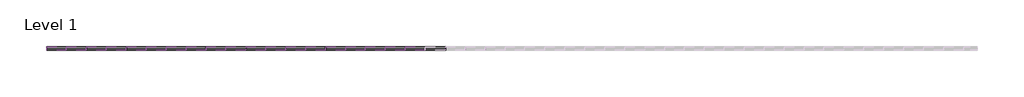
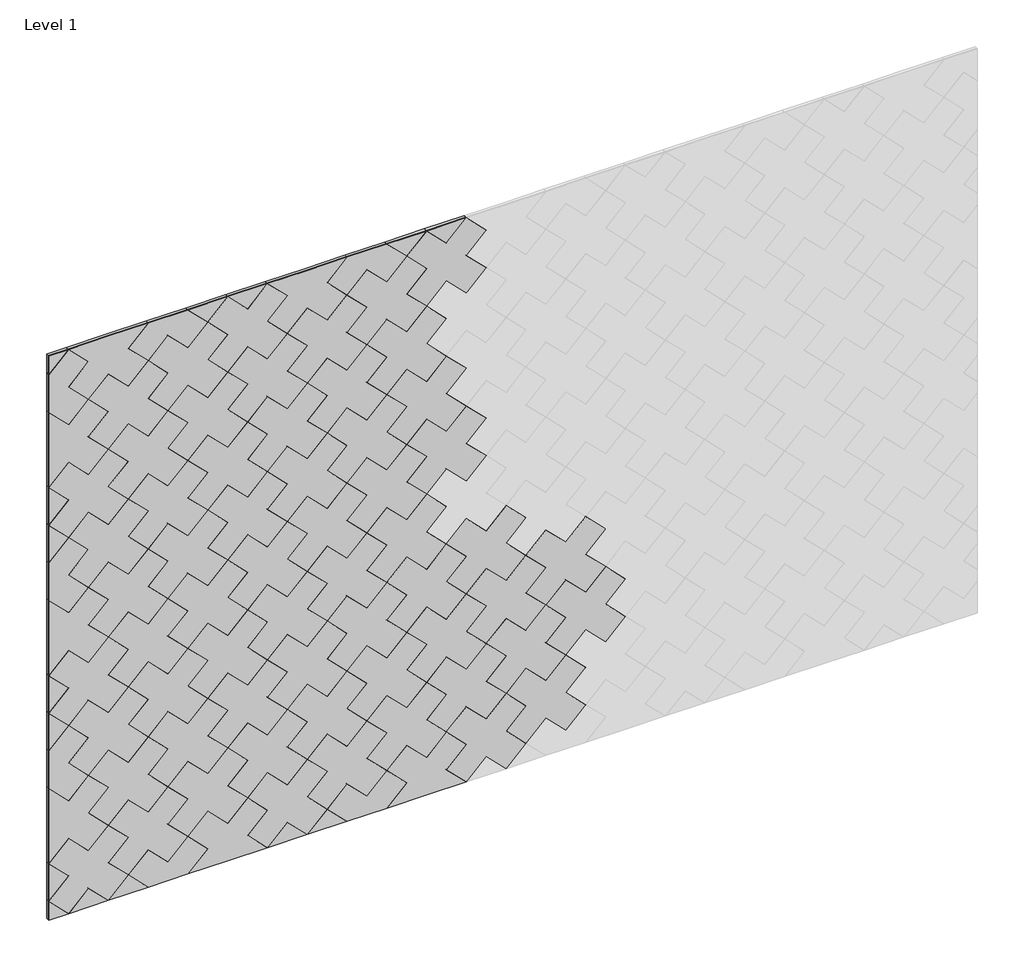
# One storey, part 1 of 2: 85 proxies.
"""IFC4 building model written with IfcOpenShell, lengths in millimetres."""

from ifc_helpers import new_model, si_unit, origin, place, context, project, spatial, transform, mapped, element, save
from components import plus_block_b4ba28bf, plus_block_f92352bd, plus_block_6a39ef65, plus_block_bc82657c, plus_block_e310b0f0, plus_block_724b5338, plus_block_983ba188, plus_block_45ecfcac, plus_block_d2276059, plus_block_438e83cd, plus_block_9b29f26b, plus_block_fb93f7b3

model = new_model("IFC4")

# Units and contexts
model_context = context("Model", 3, world=origin())
ifc_project = project(units=[si_unit("LENGTHUNIT", "METRE", prefix="MILLI")], contexts=[model_context])

# Site, building, storey
site = spatial("IfcSite", under=ifc_project)
building = spatial("IfcBuilding", under=site)
storey = spatial("IfcBuildingStorey", under=building, Name="Level 1", Elevation=0.0)

# Proxies
placement = place(None, origin())
plus_block_shape = plus_block_b4ba28bf(model_context)
element("IfcBuildingElementProxy", 1, Name="FilzFelt_Plus_Block : Plus Block", ObjectType="FilzFelt_Plus_Block : Plus Block", at=placement, inside=storey, context=model_context, shape_type="MappedRepresentation", body=[
    mapped(plus_block_shape, transform((19761.4081813, -17477.9339335, 1777.1117122), x_axis=(0.7071067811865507, 0.0, -0.7071067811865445), y_axis=(0.7071067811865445, 0.0, 0.7071067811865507), z_axis=(0.0, -1.0, 0.0))),
])
plus_block_2_shape = plus_block_f92352bd(model_context)
element("IfcBuildingElementProxy", 2, Name="FilzFelt_Plus_Block : Plus Block", ObjectType="FilzFelt_Plus_Block : Plus Block", at=placement, inside=storey, context=model_context, shape_type="MappedRepresentation", body=[
    mapped(plus_block_2_shape, transform((19545.740613, -17477.9339335, 1705.2225228), x_axis=(0.7071067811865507, 0.0, -0.7071067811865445), y_axis=(0.7071067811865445, 0.0, 0.7071067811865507), z_axis=(0.0, -1.0, 0.0))),
])
element("IfcBuildingElementProxy", 3, Name="FilzFelt_Plus_Block : Plus Block", ObjectType="FilzFelt_Plus_Block : Plus Block", at=placement, inside=storey, context=model_context, shape_type="MappedRepresentation", body=[
    mapped(plus_block_2_shape, transform((19545.740613, -17477.9339335, 267.4387343), x_axis=(0.7071067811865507, 0.0, -0.7071067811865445), y_axis=(0.7071067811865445, 0.0, 0.7071067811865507), z_axis=(0.0, -1.0, 0.0))),
])
plus_block_3_shape = plus_block_6a39ef65(model_context)
element("IfcBuildingElementProxy", 4, Name="FilzFelt_Plus_Block : Plus Block", ObjectType="FilzFelt_Plus_Block : Plus Block", at=placement, inside=storey, context=model_context, shape_type="MappedRepresentation", body=[
    mapped(plus_block_3_shape, transform((19833.2973707, -17477.9339335, 1561.4441439), x_axis=(0.7071067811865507, 0.0, -0.7071067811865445), y_axis=(0.7071067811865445, 0.0, 0.7071067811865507), z_axis=(0.0, -1.0, 0.0))),
])
element("IfcBuildingElementProxy", 5, Name="FilzFelt_Plus_Block : Plus Block", ObjectType="FilzFelt_Plus_Block : Plus Block", at=placement, inside=storey, context=model_context, shape_type="MappedRepresentation", body=[
    mapped(plus_block_3_shape, transform((19761.4081813, -17477.9339335, 339.3279238), x_axis=(0.7071067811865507, 0.0, -0.7071067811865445), y_axis=(0.7071067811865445, 0.0, 0.7071067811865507), z_axis=(0.0, -1.0, 0.0))),
])
element("IfcBuildingElementProxy", 6, Name="FilzFelt_Plus_Block : Plus Block", ObjectType="FilzFelt_Plus_Block : Plus Block", at=placement, inside=storey, context=model_context, shape_type="MappedRepresentation", body=[
    mapped(plus_block_3_shape, transform((19905.1865601, -17477.9339335, 626.8846814), x_axis=(0.7071067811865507, 0.0, -0.7071067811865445), y_axis=(0.7071067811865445, 0.0, 0.7071067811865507), z_axis=(0.0, -1.0, 0.0))),
])
element("IfcBuildingElementProxy", 7, Name="FilzFelt_Plus_Block : Plus Block", ObjectType="FilzFelt_Plus_Block : Plus Block", at=placement, inside=storey, context=model_context, shape_type="MappedRepresentation", body=[
    mapped(plus_block_3_shape, transform((20336.5216967, -17477.9339335, 770.6630603), x_axis=(0.7071067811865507, 0.0, -0.7071067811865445), y_axis=(0.7071067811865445, 0.0, 0.7071067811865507), z_axis=(0.0, -1.0, 0.0))),
])
element("IfcBuildingElementProxy", 8, Name="FilzFelt_Plus_Block : Plus Block", ObjectType="FilzFelt_Plus_Block : Plus Block", at=placement, inside=storey, context=model_context, shape_type="MappedRepresentation", body=[
    mapped(plus_block_3_shape, transform((19977.0757496, -17477.9339335, 411.2171132), x_axis=(0.7071067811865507, 0.0, -0.7071067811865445), y_axis=(0.7071067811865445, 0.0, 0.7071067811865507), z_axis=(0.0, -1.0, 0.0))),
])
element("IfcBuildingElementProxy", 9, Name="FilzFelt_Plus_Block : Plus Block", ObjectType="FilzFelt_Plus_Block : Plus Block", at=placement, inside=storey, context=model_context, shape_type="MappedRepresentation", body=[
    mapped(plus_block_3_shape, transform((20192.7433178, -17477.9339335, 483.1063026), x_axis=(0.7071067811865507, 0.0, -0.7071067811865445), y_axis=(0.7071067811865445, 0.0, 0.7071067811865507), z_axis=(0.0, -1.0, 0.0))),
])
element("IfcBuildingElementProxy", 10, Name="FilzFelt_Plus_Block : Plus Block", ObjectType="FilzFelt_Plus_Block : Plus Block", at=placement, inside=storey, context=model_context, shape_type="MappedRepresentation", body=[
    mapped(plus_block_3_shape, transform((20048.964939, -17477.9339335, 195.5495449), x_axis=(0.7071067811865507, 0.0, -0.7071067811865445), y_axis=(0.7071067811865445, 0.0, 0.7071067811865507), z_axis=(0.0, -1.0, 0.0))),
])
element("IfcBuildingElementProxy", 11, Name="FilzFelt_Plus_Block : Plus Block", ObjectType="FilzFelt_Plus_Block : Plus Block", at=placement, inside=storey, context=model_context, shape_type="MappedRepresentation", body=[
    mapped(plus_block_3_shape, transform((20408.4108861, -17477.9339335, 554.995492), x_axis=(0.7071067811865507, 0.0, -0.7071067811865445), y_axis=(0.7071067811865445, 0.0, 0.7071067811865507), z_axis=(0.0, -1.0, 0.0))),
])
element("IfcBuildingElementProxy", 12, Name="FilzFelt_Plus_Block : Plus Block", ObjectType="FilzFelt_Plus_Block : Plus Block", at=placement, inside=storey, context=model_context, shape_type="MappedRepresentation", body=[
    mapped(plus_block_3_shape, transform((20480.3000755, -17477.9339335, 339.3279238), x_axis=(0.7071067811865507, 0.0, -0.7071067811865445), y_axis=(0.7071067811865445, 0.0, 0.7071067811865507), z_axis=(0.0, -1.0, 0.0))),
])
element("IfcBuildingElementProxy", 13, Name="FilzFelt_Plus_Block : Plus Block", ObjectType="FilzFelt_Plus_Block : Plus Block", at=placement, inside=storey, context=model_context, shape_type="MappedRepresentation", body=[
    mapped(plus_block_3_shape, transform((20264.6325073, -17477.9339335, 1705.2225228), x_axis=(0.7071067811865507, 0.0, -0.7071067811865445), y_axis=(0.7071067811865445, 0.0, 0.7071067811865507), z_axis=(0.0, -1.0, 0.0))),
])
element("IfcBuildingElementProxy", 14, Name="FilzFelt_Plus_Block : Plus Block", ObjectType="FilzFelt_Plus_Block : Plus Block", at=placement, inside=storey, context=model_context, shape_type="MappedRepresentation", body=[
    mapped(plus_block_3_shape, transform((20624.0784544, -17477.9339335, 626.8846814), x_axis=(0.7071067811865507, 0.0, -0.7071067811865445), y_axis=(0.7071067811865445, 0.0, 0.7071067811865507), z_axis=(0.0, -1.0, 0.0))),
])
element("IfcBuildingElementProxy", 15, Name="FilzFelt_Plus_Block : Plus Block", ObjectType="FilzFelt_Plus_Block : Plus Block", at=placement, inside=storey, context=model_context, shape_type="MappedRepresentation", body=[
    mapped(plus_block_3_shape, transform((20911.635212, -17477.9339335, 483.1063026), x_axis=(0.7071067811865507, 0.0, -0.7071067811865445), y_axis=(0.7071067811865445, 0.0, 0.7071067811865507), z_axis=(0.0, -1.0, 0.0))),
])
element("IfcBuildingElementProxy", 16, Name="FilzFelt_Plus_Block : Plus Block", ObjectType="FilzFelt_Plus_Block : Plus Block", at=placement, inside=storey, context=model_context, shape_type="MappedRepresentation", body=[
    mapped(plus_block_3_shape, transform((20767.8568332, -17477.9339335, 914.4414391), x_axis=(0.7071067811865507, 0.0, -0.7071067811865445), y_axis=(0.7071067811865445, 0.0, 0.7071067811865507), z_axis=(0.0, -1.0, 0.0))),
])
element("IfcBuildingElementProxy", 17, Name="FilzFelt_Plus_Block : Plus Block", ObjectType="FilzFelt_Plus_Block : Plus Block", at=placement, inside=storey, context=model_context, shape_type="MappedRepresentation", body=[
    mapped(plus_block_3_shape, transform((20839.7460226, -17477.9339335, 698.7738709), x_axis=(0.7071067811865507, 0.0, -0.7071067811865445), y_axis=(0.7071067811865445, 0.0, 0.7071067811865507), z_axis=(0.0, -1.0, 0.0))),
])
plus_block_4_shape = plus_block_bc82657c(model_context)
element("IfcBuildingElementProxy", 18, Name="FilzFelt_Plus_Block : Plus Block", ObjectType="FilzFelt_Plus_Block : Plus Block", at=placement, inside=storey, context=model_context, shape_type="MappedRepresentation", body=[
    mapped(plus_block_4_shape, transform((19473.8514236, -17477.9339335, 1920.890091), x_axis=(0.7071067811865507, 0.0, -0.7071067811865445), y_axis=(0.7071067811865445, 0.0, 0.7071067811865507), z_axis=(0.0, -1.0, 0.0))),
])
plus_block_5_shape = plus_block_e310b0f0(model_context)
element("IfcBuildingElementProxy", 19, Name="FilzFelt_Plus_Block : Plus Block", ObjectType="FilzFelt_Plus_Block : Plus Block", at=placement, inside=storey, context=model_context, shape_type="MappedRepresentation", body=[
    mapped(plus_block_5_shape, transform((19977.0757496, -17477.9339335, 1849.0009016), x_axis=(0.7071067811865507, 0.0, -0.7071067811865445), y_axis=(0.7071067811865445, 0.0, 0.7071067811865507), z_axis=(0.0, -1.0, 0.0))),
])
element("IfcBuildingElementProxy", 20, Name="FilzFelt_Plus_Block : Plus Block", ObjectType="FilzFelt_Plus_Block : Plus Block", at=placement, inside=storey, context=model_context, shape_type="MappedRepresentation", body=[
    mapped(plus_block_5_shape, transform((20695.9676438, -17477.9339335, 1849.0009016), x_axis=(0.7071067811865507, 0.0, -0.7071067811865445), y_axis=(0.7071067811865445, 0.0, 0.7071067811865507), z_axis=(0.0, -1.0, 0.0))),
])
plus_block_6_shape = plus_block_724b5338(model_context)
element("IfcBuildingElementProxy", 21, Name="FilzFelt_Plus_Block : Plus Block", ObjectType="FilzFelt_Plus_Block : Plus Block", at=placement, inside=storey, context=model_context, shape_type="MappedRepresentation", body=[
    mapped(plus_block_6_shape, transform((19473.8514236, -17477.9339335, 626.8846814), x_axis=(0.7071067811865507, 0.0, -0.7071067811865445), y_axis=(0.7071067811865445, 0.0, 0.7071067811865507), z_axis=(0.0, -1.0, 0.0))),
])
element("IfcBuildingElementProxy", 22, Name="FilzFelt_Plus_Block : Plus Block", ObjectType="FilzFelt_Plus_Block : Plus Block", at=placement, inside=storey, context=model_context, shape_type="MappedRepresentation", body=[
    mapped(plus_block_6_shape, transform((19473.8514236, -17477.9339335, 483.1063026), x_axis=(0.7071067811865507, 0.0, -0.7071067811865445), y_axis=(0.7071067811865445, 0.0, 0.7071067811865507), z_axis=(0.0, -1.0, 0.0))),
])
plus_block_7_shape = plus_block_983ba188(model_context)
element("IfcBuildingElementProxy", 23, Name="FilzFelt_Plus_Block : Plus Block", ObjectType="FilzFelt_Plus_Block : Plus Block", at=placement, inside=storey, context=model_context, shape_type="MappedRepresentation", body=[
    mapped(plus_block_7_shape, transform((19617.6298025, -17477.9339335, 51.7711661), x_axis=(0.7071067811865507, 0.0, -0.7071067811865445), y_axis=(0.7071067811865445, 0.0, 0.7071067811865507), z_axis=(0.0, -1.0, 0.0))),
])
plus_block_8_shape = plus_block_45ecfcac(model_context)
element("IfcBuildingElementProxy", 24, Name="FilzFelt_Plus_Block : Plus Block", ObjectType="FilzFelt_Plus_Block : Plus Block", at=placement, inside=storey, context=model_context, shape_type="MappedRepresentation", body=[
    mapped(plus_block_8_shape, transform((20192.7433178, -17477.9339335, 1920.890091), x_axis=(0.7071067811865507, 0.0, -0.7071067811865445), y_axis=(0.7071067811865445, 0.0, 0.7071067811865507), z_axis=(0.0, -1.0, 0.0))),
])
element("IfcBuildingElementProxy", 25, Name="FilzFelt_Plus_Block : Plus Block", ObjectType="FilzFelt_Plus_Block : Plus Block", at=placement, inside=storey, context=model_context, shape_type="MappedRepresentation", body=[
    mapped(plus_block_3_shape, transform((19905.1865601, -17477.9339335, 1345.7765757), x_axis=(0.7071067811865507, 0.0, -0.7071067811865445), y_axis=(0.7071067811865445, 0.0, 0.7071067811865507), z_axis=(0.0, -1.0, 0.0))),
])
element("IfcBuildingElementProxy", 26, Name="FilzFelt_Plus_Block : Plus Block", ObjectType="FilzFelt_Plus_Block : Plus Block", at=placement, inside=storey, context=model_context, shape_type="MappedRepresentation", body=[
    mapped(plus_block_3_shape, transform((19689.5189919, -17477.9339335, 1273.8873862), x_axis=(0.7071067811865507, 0.0, -0.7071067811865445), y_axis=(0.7071067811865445, 0.0, 0.7071067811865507), z_axis=(0.0, -1.0, 0.0))),
])
element("IfcBuildingElementProxy", 27, Name="FilzFelt_Plus_Block : Plus Block", ObjectType="FilzFelt_Plus_Block : Plus Block", at=placement, inside=storey, context=model_context, shape_type="MappedRepresentation", body=[
    mapped(plus_block_3_shape, transform((19761.4081813, -17477.9339335, 1058.219818), x_axis=(0.7071067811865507, 0.0, -0.7071067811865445), y_axis=(0.7071067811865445, 0.0, 0.7071067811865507), z_axis=(0.0, -1.0, 0.0))),
])
element("IfcBuildingElementProxy", 28, Name="FilzFelt_Plus_Block : Plus Block", ObjectType="FilzFelt_Plus_Block : Plus Block", at=placement, inside=storey, context=model_context, shape_type="MappedRepresentation", body=[
    mapped(plus_block_3_shape, transform((19689.5189919, -17477.9339335, -163.8964022), x_axis=(0.7071067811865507, 0.0, -0.7071067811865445), y_axis=(0.7071067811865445, 0.0, 0.7071067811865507), z_axis=(0.0, -1.0, 0.0))),
])
element("IfcBuildingElementProxy", 29, Name="FilzFelt_Plus_Block : Plus Block", ObjectType="FilzFelt_Plus_Block : Plus Block", at=placement, inside=storey, context=model_context, shape_type="MappedRepresentation", body=[
    mapped(plus_block_3_shape, transform((20048.964939, -17477.9339335, 1633.3333333), x_axis=(0.7071067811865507, 0.0, -0.7071067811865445), y_axis=(0.7071067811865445, 0.0, 0.7071067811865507), z_axis=(0.0, -1.0, 0.0))),
])
element("IfcBuildingElementProxy", 30, Name="FilzFelt_Plus_Block : Plus Block", ObjectType="FilzFelt_Plus_Block : Plus Block", at=placement, inside=storey, context=model_context, shape_type="MappedRepresentation", body=[
    mapped(plus_block_3_shape, transform((20120.8541284, -17477.9339335, 1417.6657651), x_axis=(0.7071067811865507, 0.0, -0.7071067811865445), y_axis=(0.7071067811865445, 0.0, 0.7071067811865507), z_axis=(0.0, -1.0, 0.0))),
])
element("IfcBuildingElementProxy", 31, Name="FilzFelt_Plus_Block : Plus Block", ObjectType="FilzFelt_Plus_Block : Plus Block", at=placement, inside=storey, context=model_context, shape_type="MappedRepresentation", body=[
    mapped(plus_block_3_shape, transform((20192.7433178, -17477.9339335, 1201.9981968), x_axis=(0.7071067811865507, 0.0, -0.7071067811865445), y_axis=(0.7071067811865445, 0.0, 0.7071067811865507), z_axis=(0.0, -1.0, 0.0))),
])
element("IfcBuildingElementProxy", 32, Name="FilzFelt_Plus_Block : Plus Block", ObjectType="FilzFelt_Plus_Block : Plus Block", at=placement, inside=storey, context=model_context, shape_type="MappedRepresentation", body=[
    mapped(plus_block_3_shape, transform((19833.2973707, -17477.9339335, 123.6603555), x_axis=(0.7071067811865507, 0.0, -0.7071067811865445), y_axis=(0.7071067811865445, 0.0, 0.7071067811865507), z_axis=(0.0, -1.0, 0.0))),
])
element("IfcBuildingElementProxy", 33, Name="FilzFelt_Plus_Block : Plus Block", ObjectType="FilzFelt_Plus_Block : Plus Block", at=placement, inside=storey, context=model_context, shape_type="MappedRepresentation", body=[
    mapped(plus_block_3_shape, transform((20264.6325073, -17477.9339335, 267.4387343), x_axis=(0.7071067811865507, 0.0, -0.7071067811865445), y_axis=(0.7071067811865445, 0.0, 0.7071067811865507), z_axis=(0.0, -1.0, 0.0))),
])
element("IfcBuildingElementProxy", 34, Name="FilzFelt_Plus_Block : Plus Block", ObjectType="FilzFelt_Plus_Block : Plus Block", at=placement, inside=storey, context=model_context, shape_type="MappedRepresentation", body=[
    mapped(plus_block_3_shape, transform((19905.1865601, -17477.9339335, -92.0072128), x_axis=(0.7071067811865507, 0.0, -0.7071067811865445), y_axis=(0.7071067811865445, 0.0, 0.7071067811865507), z_axis=(0.0, -1.0, 0.0))),
])
element("IfcBuildingElementProxy", 35, Name="FilzFelt_Plus_Block : Plus Block", ObjectType="FilzFelt_Plus_Block : Plus Block", at=placement, inside=storey, context=model_context, shape_type="MappedRepresentation", body=[
    mapped(plus_block_3_shape, transform((20120.8541284, -17477.9339335, -20.1180233), x_axis=(0.7071067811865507, 0.0, -0.7071067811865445), y_axis=(0.7071067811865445, 0.0, 0.7071067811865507), z_axis=(0.0, -1.0, 0.0))),
])
element("IfcBuildingElementProxy", 36, Name="FilzFelt_Plus_Block : Plus Block", ObjectType="FilzFelt_Plus_Block : Plus Block", at=placement, inside=storey, context=model_context, shape_type="MappedRepresentation", body=[
    mapped(plus_block_3_shape, transform((20336.5216967, -17477.9339335, 51.7711661), x_axis=(0.7071067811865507, 0.0, -0.7071067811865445), y_axis=(0.7071067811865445, 0.0, 0.7071067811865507), z_axis=(0.0, -1.0, 0.0))),
])
element("IfcBuildingElementProxy", 37, Name="FilzFelt_Plus_Block : Plus Block", ObjectType="FilzFelt_Plus_Block : Plus Block", at=placement, inside=storey, context=model_context, shape_type="MappedRepresentation", body=[
    mapped(plus_block_3_shape, transform((20552.1892649, -17477.9339335, 123.6603555), x_axis=(0.7071067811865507, 0.0, -0.7071067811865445), y_axis=(0.7071067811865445, 0.0, 0.7071067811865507), z_axis=(0.0, -1.0, 0.0))),
])
element("IfcBuildingElementProxy", 38, Name="FilzFelt_Plus_Block : Plus Block", ObjectType="FilzFelt_Plus_Block : Plus Block", at=placement, inside=storey, context=model_context, shape_type="MappedRepresentation", body=[
    mapped(plus_block_3_shape, transform((20408.4108861, -17477.9339335, -163.8964022), x_axis=(0.7071067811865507, 0.0, -0.7071067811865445), y_axis=(0.7071067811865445, 0.0, 0.7071067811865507), z_axis=(0.0, -1.0, 0.0))),
])
element("IfcBuildingElementProxy", 39, Name="FilzFelt_Plus_Block : Plus Block", ObjectType="FilzFelt_Plus_Block : Plus Block", at=placement, inside=storey, context=model_context, shape_type="MappedRepresentation", body=[
    mapped(plus_block_3_shape, transform((20336.5216967, -17477.9339335, 1489.5549545), x_axis=(0.7071067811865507, 0.0, -0.7071067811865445), y_axis=(0.7071067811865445, 0.0, 0.7071067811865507), z_axis=(0.0, -1.0, 0.0))),
])
element("IfcBuildingElementProxy", 40, Name="FilzFelt_Plus_Block : Plus Block", ObjectType="FilzFelt_Plus_Block : Plus Block", at=placement, inside=storey, context=model_context, shape_type="MappedRepresentation", body=[
    mapped(plus_block_3_shape, transform((20552.1892649, -17477.9339335, 1561.4441439), x_axis=(0.7071067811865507, 0.0, -0.7071067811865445), y_axis=(0.7071067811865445, 0.0, 0.7071067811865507), z_axis=(0.0, -1.0, 0.0))),
])
element("IfcBuildingElementProxy", 41, Name="FilzFelt_Plus_Block : Plus Block", ObjectType="FilzFelt_Plus_Block : Plus Block", at=placement, inside=storey, context=model_context, shape_type="MappedRepresentation", body=[
    mapped(plus_block_3_shape, transform((20624.0784544, -17477.9339335, 1345.7765757), x_axis=(0.7071067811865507, 0.0, -0.7071067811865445), y_axis=(0.7071067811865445, 0.0, 0.7071067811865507), z_axis=(0.0, -1.0, 0.0))),
])
element("IfcBuildingElementProxy", 42, Name="FilzFelt_Plus_Block : Plus Block", ObjectType="FilzFelt_Plus_Block : Plus Block", at=placement, inside=storey, context=model_context, shape_type="MappedRepresentation", body=[
    mapped(plus_block_3_shape, transform((20695.9676438, -17477.9339335, 411.2171132), x_axis=(0.7071067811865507, 0.0, -0.7071067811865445), y_axis=(0.7071067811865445, 0.0, 0.7071067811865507), z_axis=(0.0, -1.0, 0.0))),
])
element("IfcBuildingElementProxy", 43, Name="FilzFelt_Plus_Block : Plus Block", ObjectType="FilzFelt_Plus_Block : Plus Block", at=placement, inside=storey, context=model_context, shape_type="MappedRepresentation", body=[
    mapped(plus_block_3_shape, transform((20767.8568332, -17477.9339335, 195.5495449), x_axis=(0.7071067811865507, 0.0, -0.7071067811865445), y_axis=(0.7071067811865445, 0.0, 0.7071067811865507), z_axis=(0.0, -1.0, 0.0))),
])
element("IfcBuildingElementProxy", 44, Name="FilzFelt_Plus_Block : Plus Block", ObjectType="FilzFelt_Plus_Block : Plus Block", at=placement, inside=storey, context=model_context, shape_type="MappedRepresentation", body=[
    mapped(plus_block_3_shape, transform((20839.7460226, -17477.9339335, -20.1180233), x_axis=(0.7071067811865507, 0.0, -0.7071067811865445), y_axis=(0.7071067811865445, 0.0, 0.7071067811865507), z_axis=(0.0, -1.0, 0.0))),
])
element("IfcBuildingElementProxy", 45, Name="FilzFelt_Plus_Block : Plus Block", ObjectType="FilzFelt_Plus_Block : Plus Block", at=placement, inside=storey, context=model_context, shape_type="MappedRepresentation", body=[
    mapped(plus_block_3_shape, transform((20983.5244015, -17477.9339335, 267.4387343), x_axis=(0.7071067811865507, 0.0, -0.7071067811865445), y_axis=(0.7071067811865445, 0.0, 0.7071067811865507), z_axis=(0.0, -1.0, 0.0))),
])
element("IfcBuildingElementProxy", 46, Name="FilzFelt_Plus_Block : Plus Block", ObjectType="FilzFelt_Plus_Block : Plus Block", at=placement, inside=storey, context=model_context, shape_type="MappedRepresentation", body=[
    mapped(plus_block_3_shape, transform((21271.0811591, -17477.9339335, 123.6603555), x_axis=(0.7071067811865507, 0.0, -0.7071067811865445), y_axis=(0.7071067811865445, 0.0, 0.7071067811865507), z_axis=(0.0, -1.0, 0.0))),
])
element("IfcBuildingElementProxy", 47, Name="FilzFelt_Plus_Block : Plus Block", ObjectType="FilzFelt_Plus_Block : Plus Block", at=placement, inside=storey, context=model_context, shape_type="MappedRepresentation", body=[
    mapped(plus_block_3_shape, transform((21199.1919697, -17477.9339335, 339.3279238), x_axis=(0.7071067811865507, 0.0, -0.7071067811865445), y_axis=(0.7071067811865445, 0.0, 0.7071067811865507), z_axis=(0.0, -1.0, 0.0))),
])
element("IfcBuildingElementProxy", 48, Name="FilzFelt_Plus_Block : Plus Block", ObjectType="FilzFelt_Plus_Block : Plus Block", at=placement, inside=storey, context=model_context, shape_type="MappedRepresentation", body=[
    mapped(plus_block_3_shape, transform((21127.3027803, -17477.9339335, 554.995492), x_axis=(0.7071067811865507, 0.0, -0.7071067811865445), y_axis=(0.7071067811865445, 0.0, 0.7071067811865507), z_axis=(0.0, -1.0, 0.0))),
])
element("IfcBuildingElementProxy", 49, Name="FilzFelt_Plus_Block : Plus Block", ObjectType="FilzFelt_Plus_Block : Plus Block", at=placement, inside=storey, context=model_context, shape_type="MappedRepresentation", body=[
    mapped(plus_block_3_shape, transform((21414.859538, -17477.9339335, 411.2171132), x_axis=(0.7071067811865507, 0.0, -0.7071067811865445), y_axis=(0.7071067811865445, 0.0, 0.7071067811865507), z_axis=(0.0, -1.0, 0.0))),
])
element("IfcBuildingElementProxy", 50, Name="FilzFelt_Plus_Block : Plus Block", ObjectType="FilzFelt_Plus_Block : Plus Block", at=placement, inside=storey, context=model_context, shape_type="MappedRepresentation", body=[
    mapped(plus_block_3_shape, transform((20767.8568332, -17477.9339335, 1633.3333333), x_axis=(0.7071067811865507, 0.0, -0.7071067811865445), y_axis=(0.7071067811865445, 0.0, 0.7071067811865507), z_axis=(0.0, -1.0, 0.0))),
])
element("IfcBuildingElementProxy", 51, Name="FilzFelt_Plus_Block : Plus Block", ObjectType="FilzFelt_Plus_Block : Plus Block", at=placement, inside=storey, context=model_context, shape_type="MappedRepresentation", body=[
    mapped(plus_block_3_shape, transform((20983.5244015, -17477.9339335, 1705.2225228), x_axis=(0.7071067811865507, 0.0, -0.7071067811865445), y_axis=(0.7071067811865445, 0.0, 0.7071067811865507), z_axis=(0.0, -1.0, 0.0))),
])
plus_block_9_shape = plus_block_d2276059(model_context)
element("IfcBuildingElementProxy", 52, Name="FilzFelt_Plus_Block : Plus Block", ObjectType="FilzFelt_Plus_Block : Plus Block", at=placement, inside=storey, context=model_context, shape_type="MappedRepresentation", body=[
    mapped(plus_block_9_shape, transform((19977.0757496, -17477.9339335, -307.674781), x_axis=(0.7071067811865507, 0.0, -0.7071067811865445), y_axis=(0.7071067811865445, 0.0, 0.7071067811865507), z_axis=(0.0, -1.0, 0.0))),
])
element("IfcBuildingElementProxy", 53, Name="FilzFelt_Plus_Block : Plus Block", ObjectType="FilzFelt_Plus_Block : Plus Block", at=placement, inside=storey, context=model_context, shape_type="MappedRepresentation", body=[
    mapped(plus_block_6_shape, transform((19473.8514236, -17477.9339335, -92.0072128), x_axis=(0.7071067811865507, 0.0, -0.7071067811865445), y_axis=(0.7071067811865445, 0.0, 0.7071067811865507), z_axis=(0.0, -1.0, 0.0))),
])
element("IfcBuildingElementProxy", 54, Name="FilzFelt_Plus_Block : Plus Block", ObjectType="FilzFelt_Plus_Block : Plus Block", at=placement, inside=storey, context=model_context, shape_type="MappedRepresentation", body=[
    mapped(plus_block_6_shape, transform((19617.6298025, -17477.9339335, -379.5639704), x_axis=(0.7071067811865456, 0.0, 0.7071067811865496), y_axis=(-0.7071067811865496, 0.0, 0.7071067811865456), z_axis=(0.0, -1.0, 0.0))),
])
element("IfcBuildingElementProxy", 55, Name="FilzFelt_Plus_Block : Plus Block", ObjectType="FilzFelt_Plus_Block : Plus Block", at=placement, inside=storey, context=model_context, shape_type="MappedRepresentation", body=[
    mapped(plus_block_6_shape, transform((19761.4081813, -17477.9339335, -379.5639704), x_axis=(0.7071067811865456, 0.0, 0.7071067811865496), y_axis=(-0.7071067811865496, 0.0, 0.7071067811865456), z_axis=(0.0, -1.0, 0.0))),
])
plus_block_10_shape = plus_block_438e83cd(model_context)
element("IfcBuildingElementProxy", 56, Name="FilzFelt_Plus_Block : Plus Block", ObjectType="FilzFelt_Plus_Block : Plus Block", at=placement, inside=storey, context=model_context, shape_type="MappedRepresentation", body=[
    mapped(plus_block_10_shape, transform((19473.8514236, -17477.9339335, -235.7855916), x_axis=(0.7071067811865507, 0.0, -0.7071067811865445), y_axis=(0.7071067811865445, 0.0, 0.7071067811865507), z_axis=(0.0, -1.0, 0.0))),
])
plus_block_11_shape = plus_block_9b29f26b(model_context)
element("IfcBuildingElementProxy", 57, Name="FilzFelt_Plus_Block : Plus Block", ObjectType="FilzFelt_Plus_Block : Plus Block", at=placement, inside=storey, context=model_context, shape_type="MappedRepresentation", body=[
    mapped(plus_block_11_shape, transform((20192.7433178, -17477.9339335, -235.7855916), x_axis=(0.7071067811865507, 0.0, -0.7071067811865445), y_axis=(0.7071067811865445, 0.0, 0.7071067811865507), z_axis=(0.0, -1.0, 0.0))),
])
element("IfcBuildingElementProxy", 58, Name="FilzFelt_Plus_Block : Plus Block", ObjectType="FilzFelt_Plus_Block : Plus Block", at=placement, inside=storey, context=model_context, shape_type="MappedRepresentation", body=[
    mapped(plus_block_11_shape, transform((20911.635212, -17477.9339335, -235.7855916), x_axis=(0.7071067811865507, 0.0, -0.7071067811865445), y_axis=(0.7071067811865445, 0.0, 0.7071067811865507), z_axis=(0.0, -1.0, 0.0))),
])
element("IfcBuildingElementProxy", 59, Name="FilzFelt_Plus_Block : Plus Block", ObjectType="FilzFelt_Plus_Block : Plus Block", at=placement, inside=storey, context=model_context, shape_type="MappedRepresentation", body=[
    mapped(plus_block_3_shape, transform((19689.5189919, -17477.9339335, 554.995492), x_axis=(0.7071067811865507, 0.0, -0.7071067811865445), y_axis=(0.7071067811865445, 0.0, 0.7071067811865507), z_axis=(0.0, -1.0, 0.0))),
])
element("IfcBuildingElementProxy", 60, Name="FilzFelt_Plus_Block : Plus Block", ObjectType="FilzFelt_Plus_Block : Plus Block", at=placement, inside=storey, context=model_context, shape_type="MappedRepresentation", body=[
    mapped(plus_block_3_shape, transform((19977.0757496, -17477.9339335, 1130.1090074), x_axis=(0.7071067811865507, 0.0, -0.7071067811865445), y_axis=(0.7071067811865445, 0.0, 0.7071067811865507), z_axis=(0.0, -1.0, 0.0))),
])
element("IfcBuildingElementProxy", 61, Name="FilzFelt_Plus_Block : Plus Block", ObjectType="FilzFelt_Plus_Block : Plus Block", at=placement, inside=storey, context=model_context, shape_type="MappedRepresentation", body=[
    mapped(plus_block_3_shape, transform((19833.2973707, -17477.9339335, 842.5522497), x_axis=(0.7071067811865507, 0.0, -0.7071067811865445), y_axis=(0.7071067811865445, 0.0, 0.7071067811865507), z_axis=(0.0, -1.0, 0.0))),
])
element("IfcBuildingElementProxy", 62, Name="FilzFelt_Plus_Block : Plus Block", ObjectType="FilzFelt_Plus_Block : Plus Block", at=placement, inside=storey, context=model_context, shape_type="MappedRepresentation", body=[
    mapped(plus_block_3_shape, transform((20048.964939, -17477.9339335, 914.4414391), x_axis=(0.7071067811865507, 0.0, -0.7071067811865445), y_axis=(0.7071067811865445, 0.0, 0.7071067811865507), z_axis=(0.0, -1.0, 0.0))),
])
element("IfcBuildingElementProxy", 63, Name="FilzFelt_Plus_Block : Plus Block", ObjectType="FilzFelt_Plus_Block : Plus Block", at=placement, inside=storey, context=model_context, shape_type="MappedRepresentation", body=[
    mapped(plus_block_3_shape, transform((20264.6325073, -17477.9339335, 986.3306285), x_axis=(0.7071067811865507, 0.0, -0.7071067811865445), y_axis=(0.7071067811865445, 0.0, 0.7071067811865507), z_axis=(0.0, -1.0, 0.0))),
])
element("IfcBuildingElementProxy", 64, Name="FilzFelt_Plus_Block : Plus Block", ObjectType="FilzFelt_Plus_Block : Plus Block", at=placement, inside=storey, context=model_context, shape_type="MappedRepresentation", body=[
    mapped(plus_block_3_shape, transform((20120.8541284, -17477.9339335, 698.7738709), x_axis=(0.7071067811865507, 0.0, -0.7071067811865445), y_axis=(0.7071067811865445, 0.0, 0.7071067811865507), z_axis=(0.0, -1.0, 0.0))),
])
element("IfcBuildingElementProxy", 65, Name="FilzFelt_Plus_Block : Plus Block", ObjectType="FilzFelt_Plus_Block : Plus Block", at=placement, inside=storey, context=model_context, shape_type="MappedRepresentation", body=[
    mapped(plus_block_3_shape, transform((20624.0784544, -17477.9339335, -92.0072128), x_axis=(0.7071067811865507, 0.0, -0.7071067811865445), y_axis=(0.7071067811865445, 0.0, 0.7071067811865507), z_axis=(0.0, -1.0, 0.0))),
])
element("IfcBuildingElementProxy", 66, Name="FilzFelt_Plus_Block : Plus Block", ObjectType="FilzFelt_Plus_Block : Plus Block", at=placement, inside=storey, context=model_context, shape_type="MappedRepresentation", body=[
    mapped(plus_block_3_shape, transform((20408.4108861, -17477.9339335, 1273.8873862), x_axis=(0.7071067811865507, 0.0, -0.7071067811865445), y_axis=(0.7071067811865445, 0.0, 0.7071067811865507), z_axis=(0.0, -1.0, 0.0))),
])
element("IfcBuildingElementProxy", 67, Name="FilzFelt_Plus_Block : Plus Block", ObjectType="FilzFelt_Plus_Block : Plus Block", at=placement, inside=storey, context=model_context, shape_type="MappedRepresentation", body=[
    mapped(plus_block_3_shape, transform((20480.3000755, -17477.9339335, 1058.219818), x_axis=(0.7071067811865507, 0.0, -0.7071067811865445), y_axis=(0.7071067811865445, 0.0, 0.7071067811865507), z_axis=(0.0, -1.0, 0.0))),
])
element("IfcBuildingElementProxy", 68, Name="FilzFelt_Plus_Block : Plus Block", ObjectType="FilzFelt_Plus_Block : Plus Block", at=placement, inside=storey, context=model_context, shape_type="MappedRepresentation", body=[
    mapped(plus_block_3_shape, transform((20695.9676438, -17477.9339335, 1130.1090074), x_axis=(0.7071067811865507, 0.0, -0.7071067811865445), y_axis=(0.7071067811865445, 0.0, 0.7071067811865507), z_axis=(0.0, -1.0, 0.0))),
])
element("IfcBuildingElementProxy", 69, Name="FilzFelt_Plus_Block : Plus Block", ObjectType="FilzFelt_Plus_Block : Plus Block", at=placement, inside=storey, context=model_context, shape_type="MappedRepresentation", body=[
    mapped(plus_block_3_shape, transform((20552.1892649, -17477.9339335, 842.5522497), x_axis=(0.7071067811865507, 0.0, -0.7071067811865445), y_axis=(0.7071067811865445, 0.0, 0.7071067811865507), z_axis=(0.0, -1.0, 0.0))),
])
element("IfcBuildingElementProxy", 70, Name="FilzFelt_Plus_Block : Plus Block", ObjectType="FilzFelt_Plus_Block : Plus Block", at=placement, inside=storey, context=model_context, shape_type="MappedRepresentation", body=[
    mapped(plus_block_3_shape, transform((21127.3027803, -17477.9339335, -163.8964022), x_axis=(0.7071067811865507, 0.0, -0.7071067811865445), y_axis=(0.7071067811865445, 0.0, 0.7071067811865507), z_axis=(0.0, -1.0, 0.0))),
])
element("IfcBuildingElementProxy", 71, Name="FilzFelt_Plus_Block : Plus Block", ObjectType="FilzFelt_Plus_Block : Plus Block", at=placement, inside=storey, context=model_context, shape_type="MappedRepresentation", body=[
    mapped(plus_block_3_shape, transform((21055.4135909, -17477.9339335, 51.7711661), x_axis=(0.7071067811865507, 0.0, -0.7071067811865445), y_axis=(0.7071067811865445, 0.0, 0.7071067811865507), z_axis=(0.0, -1.0, 0.0))),
])
element("IfcBuildingElementProxy", 72, Name="FilzFelt_Plus_Block : Plus Block", ObjectType="FilzFelt_Plus_Block : Plus Block", at=placement, inside=storey, context=model_context, shape_type="MappedRepresentation", body=[
    mapped(plus_block_3_shape, transform((21486.7487274, -17477.9339335, 195.5495449), x_axis=(0.7071067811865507, 0.0, -0.7071067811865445), y_axis=(0.7071067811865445, 0.0, 0.7071067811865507), z_axis=(0.0, -1.0, 0.0))),
])
element("IfcBuildingElementProxy", 73, Name="FilzFelt_Plus_Block : Plus Block", ObjectType="FilzFelt_Plus_Block : Plus Block", at=placement, inside=storey, context=model_context, shape_type="MappedRepresentation", body=[
    mapped(plus_block_3_shape, transform((21342.9703486, -17477.9339335, -92.0072128), x_axis=(0.7071067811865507, 0.0, -0.7071067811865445), y_axis=(0.7071067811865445, 0.0, 0.7071067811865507), z_axis=(0.0, -1.0, 0.0))),
])
element("IfcBuildingElementProxy", 74, Name="FilzFelt_Plus_Block : Plus Block", ObjectType="FilzFelt_Plus_Block : Plus Block", at=placement, inside=storey, context=model_context, shape_type="MappedRepresentation", body=[
    mapped(plus_block_3_shape, transform((20839.7460226, -17477.9339335, 1417.6657651), x_axis=(0.7071067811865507, 0.0, -0.7071067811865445), y_axis=(0.7071067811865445, 0.0, 0.7071067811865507), z_axis=(0.0, -1.0, 0.0))),
])
element("IfcBuildingElementProxy", 75, Name="FilzFelt_Plus_Block : Plus Block", ObjectType="FilzFelt_Plus_Block : Plus Block", at=placement, inside=storey, context=model_context, shape_type="MappedRepresentation", body=[
    mapped(plus_block_3_shape, transform((20911.635212, -17477.9339335, 1201.9981968), x_axis=(0.7071067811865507, 0.0, -0.7071067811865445), y_axis=(0.7071067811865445, 0.0, 0.7071067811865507), z_axis=(0.0, -1.0, 0.0))),
])
element("IfcBuildingElementProxy", 76, Name="FilzFelt_Plus_Block : Plus Block", ObjectType="FilzFelt_Plus_Block : Plus Block", at=placement, inside=storey, context=model_context, shape_type="MappedRepresentation", body=[
    mapped(plus_block_3_shape, transform((20983.5244015, -17477.9339335, 986.3306285), x_axis=(0.7071067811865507, 0.0, -0.7071067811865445), y_axis=(0.7071067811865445, 0.0, 0.7071067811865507), z_axis=(0.0, -1.0, 0.0))),
])
plus_block_12_shape = plus_block_fb93f7b3(model_context)
element("IfcBuildingElementProxy", 77, Name="FilzFelt_Plus_Block : Plus Block", ObjectType="FilzFelt_Plus_Block : Plus Block", at=placement, inside=storey, context=model_context, shape_type="MappedRepresentation", body=[
    mapped(plus_block_12_shape, transform((20480.3000755, -17477.9339335, -379.5639704), x_axis=(0.7071067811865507, 0.0, -0.7071067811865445), y_axis=(0.7071067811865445, 0.0, 0.7071067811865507), z_axis=(0.0, -1.0, 0.0))),
])
element("IfcBuildingElementProxy", 78, Name="FilzFelt_Plus_Block : Plus Block", ObjectType="FilzFelt_Plus_Block : Plus Block", at=placement, inside=storey, context=model_context, shape_type="MappedRepresentation", body=[
    mapped(plus_block_9_shape, transform((20695.9676438, -17477.9339335, -307.674781), x_axis=(0.7071067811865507, 0.0, -0.7071067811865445), y_axis=(0.7071067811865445, 0.0, 0.7071067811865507), z_axis=(0.0, -1.0, 0.0))),
])
element("IfcBuildingElementProxy", 79, Name="FilzFelt_Plus_Block : Plus Block", ObjectType="FilzFelt_Plus_Block : Plus Block", at=placement, inside=storey, context=model_context, shape_type="MappedRepresentation", body=[
    mapped(plus_block_7_shape, transform((19617.6298025, -17477.9339335, 1489.5549545), x_axis=(0.7071067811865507, 0.0, -0.7071067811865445), y_axis=(0.7071067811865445, 0.0, 0.7071067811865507), z_axis=(0.0, -1.0, 0.0))),
])
element("IfcBuildingElementProxy", 80, Name="FilzFelt_Plus_Block : Plus Block", ObjectType="FilzFelt_Plus_Block : Plus Block", at=placement, inside=storey, context=model_context, shape_type="MappedRepresentation", body=[
    mapped(plus_block_6_shape, transform((19473.8514236, -17477.9339335, 1345.7765757), x_axis=(0.7071067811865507, 0.0, -0.7071067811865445), y_axis=(0.7071067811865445, 0.0, 0.7071067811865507), z_axis=(0.0, -1.0, 0.0))),
])
element("IfcBuildingElementProxy", 81, Name="FilzFelt_Plus_Block : Plus Block", ObjectType="FilzFelt_Plus_Block : Plus Block", at=placement, inside=storey, context=model_context, shape_type="MappedRepresentation", body=[
    mapped(plus_block_6_shape, transform((19473.8514236, -17477.9339335, 1201.9981968), x_axis=(0.7071067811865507, 0.0, -0.7071067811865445), y_axis=(0.7071067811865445, 0.0, 0.7071067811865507), z_axis=(0.0, -1.0, 0.0))),
])
element("IfcBuildingElementProxy", 82, Name="FilzFelt_Plus_Block : Plus Block", ObjectType="FilzFelt_Plus_Block : Plus Block", at=placement, inside=storey, context=model_context, shape_type="MappedRepresentation", body=[
    mapped(plus_block_shape, transform((20480.3000755, -17477.9339335, 1777.1117122), x_axis=(0.7071067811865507, 0.0, -0.7071067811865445), y_axis=(0.7071067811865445, 0.0, 0.7071067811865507), z_axis=(0.0, -1.0, 0.0))),
])
element("IfcBuildingElementProxy", 83, Name="FilzFelt_Plus_Block : Plus Block", ObjectType="FilzFelt_Plus_Block : Plus Block", at=placement, inside=storey, context=model_context, shape_type="MappedRepresentation", body=[
    mapped(plus_block_8_shape, transform((20911.635212, -17477.9339335, 1920.890091), x_axis=(0.7071067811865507, 0.0, -0.7071067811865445), y_axis=(0.7071067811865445, 0.0, 0.7071067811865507), z_axis=(0.0, -1.0, 0.0))),
])
element("IfcBuildingElementProxy", 84, Name="FilzFelt_Plus_Block : Plus Block", ObjectType="FilzFelt_Plus_Block : Plus Block", at=placement, inside=storey, context=model_context, shape_type="MappedRepresentation", body=[
    mapped(plus_block_2_shape, transform((19545.740613, -17477.9339335, 986.3306285), x_axis=(0.7071067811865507, 0.0, -0.7071067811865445), y_axis=(0.7071067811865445, 0.0, 0.7071067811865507), z_axis=(0.0, -1.0, 0.0))),
])
element("IfcBuildingElementProxy", 85, Name="FilzFelt_Plus_Block : Plus Block", ObjectType="FilzFelt_Plus_Block : Plus Block", at=placement, inside=storey, context=model_context, shape_type="MappedRepresentation", body=[
    mapped(plus_block_7_shape, transform((19617.6298025, -17477.9339335, 770.6630603), x_axis=(0.7071067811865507, 0.0, -0.7071067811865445), y_axis=(0.7071067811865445, 0.0, 0.7071067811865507), z_axis=(0.0, -1.0, 0.0))),
])

save(model, "model.ifc")
